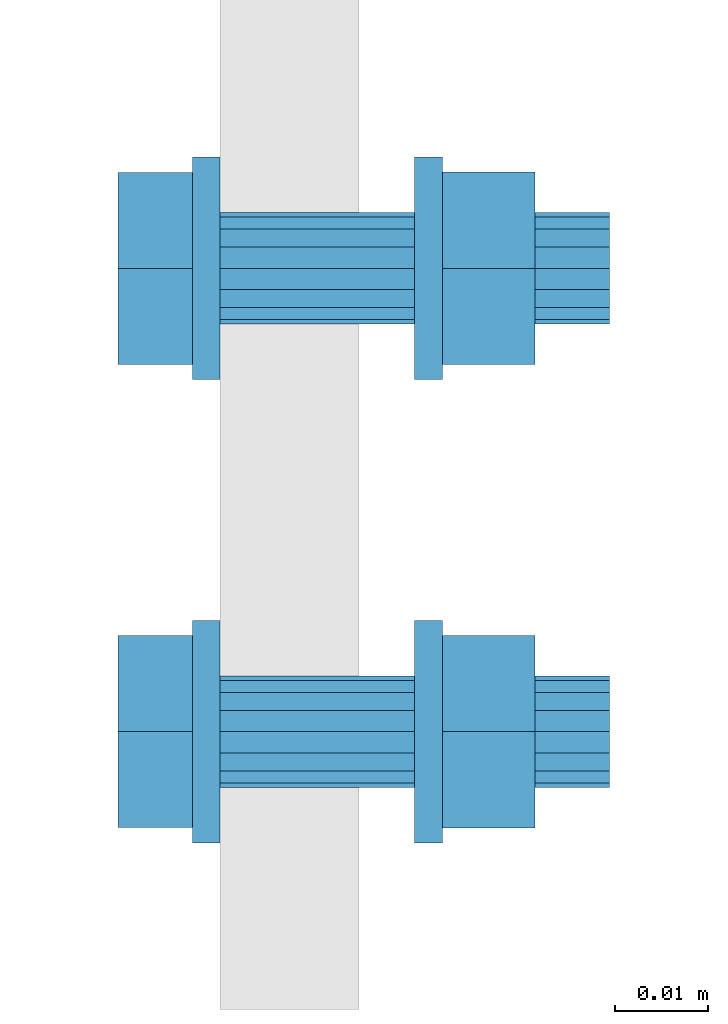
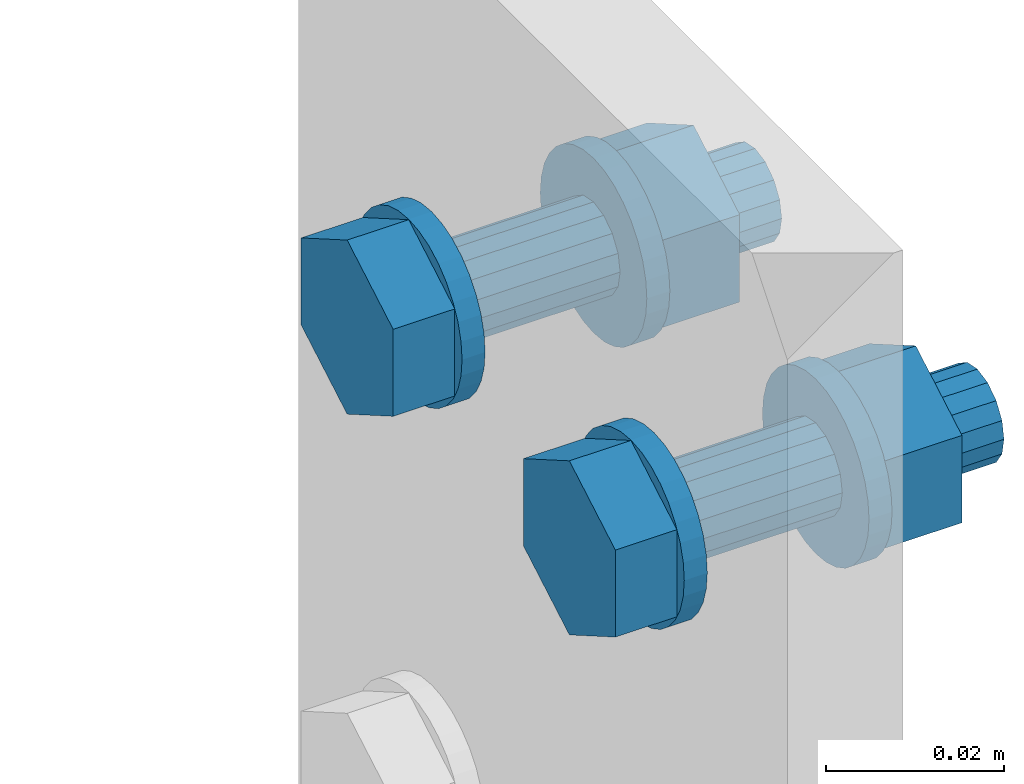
# One storey, part 12 of 13: 2 mechanical fasteners.
"""IFC4X3_ADD2 building model written with IfcOpenShell, lengths in millimetres."""

from ifc_helpers import new_model, entity, si_unit, converted_unit, derived_unit, direction, origin, place, context, project, spatial, faceted_brep, element, save


model = new_model("IFC4X3_ADD2")

# Units and contexts
model_context = context("Model", 3, precision=0.01, world=origin(), true_north=direction((6.123233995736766e-17, 1.0)))
plan_context = context("Plan", 3, precision=0.01, world=origin(), true_north=direction((6.123233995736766e-17, 1.0)))
ifc_project = project(units=[si_unit("LENGTHUNIT", "METRE", prefix="MILLI"), converted_unit("PLANEANGLEUNIT", "DEGREE", entity("IfcPlaneAngleMeasure", 0.017453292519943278), si_unit("PLANEANGLEUNIT", "RADIAN"), dimensions=[0, 0, 0, 0, 0, 0, 0]), si_unit("AREAUNIT", "SQUARE_METRE"), si_unit("VOLUMEUNIT", "CUBIC_METRE"), derived_unit("THERMALTRANSMITTANCEUNIT", [(si_unit("MASSUNIT", "GRAM", prefix="KILO"), 1), (si_unit("THERMODYNAMICTEMPERATUREUNIT", "KELVIN"), -1), (si_unit("TIMEUNIT", "SECOND"), -3)]), derived_unit("USERDEFINED", [(si_unit("MASSUNIT", "GRAM", prefix="KILO"), 1), (si_unit("THERMODYNAMICTEMPERATUREUNIT", "KELVIN"), -1), (si_unit("TIMEUNIT", "SECOND"), -2)]), derived_unit("THERMALRESISTANCEUNIT", [(si_unit("MASSUNIT", "GRAM", prefix="KILO"), -1), (si_unit("TIMEUNIT", "SECOND"), 3), (si_unit("THERMODYNAMICTEMPERATUREUNIT", "KELVIN"), 1)]), si_unit("MASSUNIT", "GRAM", prefix="KILO"), derived_unit("MOMENTOFINERTIAUNIT", [(si_unit("LENGTHUNIT", "METRE"), 4)]), derived_unit("LINEARFORCEUNIT", [(si_unit("MASSUNIT", "GRAM", prefix="KILO"), 1), (si_unit("TIMEUNIT", "SECOND"), -2)]), derived_unit("WARPINGCONSTANTUNIT", [(si_unit("LENGTHUNIT", "METRE"), 6)]), si_unit("PRESSUREUNIT", "PASCAL"), derived_unit("MASSDENSITYUNIT", [(si_unit("MASSUNIT", "GRAM", prefix="KILO"), 1), (si_unit("LENGTHUNIT", "METRE"), -3)]), derived_unit("MODULUSOFELASTICITYUNIT", [(si_unit("MASSUNIT", "GRAM", prefix="KILO"), 1), (si_unit("TIMEUNIT", "SECOND"), -2), (si_unit("LENGTHUNIT", "METRE"), -1)]), derived_unit("THERMALEXPANSIONCOEFFICIENTUNIT", [(si_unit("THERMODYNAMICTEMPERATUREUNIT", "KELVIN"), -1)]), derived_unit("VAPORPERMEABILITYUNIT", [(si_unit("LENGTHUNIT", "METRE"), -1), (si_unit("TIMEUNIT", "SECOND"), 1)]), derived_unit("USERDEFINED", [(si_unit("MASSUNIT", "GRAM", prefix="KILO"), 1), (si_unit("TIMEUNIT", "SECOND"), -3), (si_unit("LENGTHUNIT", "METRE"), 3), (si_unit("ELECTRICCURRENTUNIT", "AMPERE"), -2)]), derived_unit("SPECIFICHEATCAPACITYUNIT", [(si_unit("THERMODYNAMICTEMPERATUREUNIT", "KELVIN"), -1), (si_unit("TIMEUNIT", "SECOND"), -2), (si_unit("LENGTHUNIT", "METRE"), 2)]), derived_unit("THERMALCONDUCTANCEUNIT", [(si_unit("MASSUNIT", "GRAM", prefix="KILO"), 1), (si_unit("THERMODYNAMICTEMPERATUREUNIT", "KELVIN"), -1), (si_unit("TIMEUNIT", "SECOND"), -3), (si_unit("LENGTHUNIT", "METRE"), 1)])], contexts=[model_context, plan_context])

# Site, building, storey
site_placement = place(None, origin())
site = spatial("IfcSite", under=ifc_project, at=site_placement, Name="Default", CompositionType="ELEMENT")
building_placement = place(site_placement, origin())
building = spatial("IfcBuilding", under=site, at=building_placement, Name="Complex structure", CompositionType="ELEMENT")
storey_placement = place(building_placement, origin())
storey = spatial("IfcBuildingStorey", under=building, at=storey_placement, Name="Level 00", CompositionType="ELEMENT", Elevation=0.0)

# Mechanical fasteners
mechanical_fastener_1_placement = place(storey_placement, origin())
element("IfcMechanicalFastener", 1, at=mechanical_fastener_1_placement, inside=storey, ObjectType="Bolt#1", NominalDiameter=12.0, NominalLength=45.0, context=model_context, shape_type="Brep", body=[
    faceted_brep([(-1166.221550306, -1295.866703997, 2965.0), (-1163.221550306, -1295.866703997, 2965.0), (-1163.221550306, -1296.097280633, 2962.658916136), (-1166.221550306, -1296.097280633, 2962.658916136), (-1163.221550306, -1296.780149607, 2960.407798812), (-1166.221550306, -1296.780149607, 2960.407798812), (-1163.221550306, -1297.88906865, 2958.333157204), (-1166.221550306, -1297.88906865, 2958.333157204), (-1163.221550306, -1299.381422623, 2956.514718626), (-1166.221550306, -1299.381422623, 2956.514718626), (-1163.221550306, -1301.199861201, 2955.022364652), (-1166.221550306, -1301.199861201, 2955.022364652), (-1163.221550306, -1303.274502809, 2953.91344561), (-1166.221550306, -1303.274502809, 2953.91344561), (-1163.221550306, -1305.525620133, 2953.230576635), (-1166.221550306, -1305.525620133, 2953.230576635), (-1163.221550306, -1307.866703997, 2953.0), (-1166.221550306, -1307.866703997, 2953.0), (-1163.221550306, -1310.207787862, 2953.230576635), (-1166.221550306, -1310.207787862, 2953.230576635), (-1163.221550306, -1312.458905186, 2953.91344561), (-1166.221550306, -1312.458905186, 2953.91344561), (-1163.221550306, -1314.533546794, 2955.022364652), (-1166.221550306, -1314.533546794, 2955.022364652), (-1163.221550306, -1316.351985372, 2956.514718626), (-1166.221550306, -1316.351985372, 2956.514718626), (-1163.221550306, -1317.844339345, 2958.333157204), (-1166.221550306, -1317.844339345, 2958.333157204), (-1163.221550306, -1318.953258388, 2960.407798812), (-1166.221550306, -1318.953258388, 2960.407798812), (-1163.221550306, -1319.636127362, 2962.658916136), (-1166.221550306, -1319.636127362, 2962.658916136), (-1163.221550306, -1319.866703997, 2965.0), (-1166.221550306, -1319.866703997, 2965.0), (-1163.221550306, -1319.636127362, 2967.341083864), (-1166.221550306, -1319.636127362, 2967.341083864), (-1163.221550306, -1318.953258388, 2969.592201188), (-1166.221550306, -1318.953258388, 2969.592201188), (-1163.221550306, -1317.844339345, 2971.666842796), (-1166.221550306, -1317.844339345, 2971.666842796), (-1163.221550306, -1316.351985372, 2973.485281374), (-1166.221550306, -1316.351985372, 2973.485281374), (-1163.221550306, -1314.533546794, 2974.977635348), (-1166.221550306, -1314.533546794, 2974.977635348), (-1163.221550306, -1312.458905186, 2976.08655439), (-1166.221550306, -1312.458905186, 2976.08655439), (-1163.221550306, -1310.207787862, 2976.769423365), (-1166.221550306, -1310.207787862, 2976.769423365), (-1163.221550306, -1307.866703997, 2977.0), (-1166.221550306, -1307.866703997, 2977.0), (-1163.221550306, -1305.525620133, 2976.769423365), (-1166.221550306, -1305.525620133, 2976.769423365), (-1163.221550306, -1303.274502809, 2976.08655439), (-1166.221550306, -1303.274502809, 2976.08655439), (-1163.221550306, -1301.199861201, 2974.977635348), (-1166.221550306, -1301.199861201, 2974.977635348), (-1163.221550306, -1299.381422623, 2973.485281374), (-1166.221550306, -1299.381422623, 2973.485281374), (-1163.221550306, -1297.88906865, 2971.666842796), (-1166.221550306, -1297.88906865, 2971.666842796), (-1163.221550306, -1296.780149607, 2969.592201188), (-1166.221550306, -1296.780149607, 2969.592201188), (-1163.221550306, -1296.097280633, 2967.341083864), (-1166.221550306, -1296.097280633, 2967.341083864)], [[[0, 1, 2, 3]], [[3, 2, 4, 5]], [[5, 4, 6, 7]], [[7, 6, 8, 9]], [[9, 8, 10, 11]], [[11, 10, 12, 13]], [[13, 12, 14, 15]], [[15, 14, 16, 17]], [[17, 16, 18, 19]], [[19, 18, 20, 21]], [[21, 20, 22, 23]], [[23, 22, 24, 25]], [[25, 24, 26, 27]], [[27, 26, 28, 29]], [[29, 28, 30, 31]], [[31, 30, 32, 33]], [[33, 32, 34, 35]], [[35, 34, 36, 37]], [[37, 36, 38, 39]], [[39, 38, 40, 41]], [[41, 40, 42, 43]], [[43, 42, 44, 45]], [[45, 44, 46, 47]], [[47, 46, 48, 49]], [[49, 48, 50, 51]], [[51, 50, 52, 53]], [[53, 52, 54, 55]], [[55, 54, 56, 57]], [[57, 56, 58, 59]], [[59, 58, 60, 61]], [[61, 60, 62, 63]], [[63, 62, 1, 0]], [[0, 3, 5, 7, 9, 11, 13, 15, 17, 19, 21, 23, 25, 27, 29, 31, 33, 35, 37, 39, 41, 43, 45, 47, 49, 51, 53, 55, 57, 59, 61, 63]], [[1, 62, 60, 58, 56, 54, 52, 50, 48, 46, 44, 42, 40, 38, 36, 34, 32, 30, 28, 26, 24, 22, 20, 18, 16, 14, 12, 10, 8, 6, 4, 2]]]),
    faceted_brep([(-1166.221550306, -1318.2200377, 2959.0225), (-1174.221550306, -1318.2200377, 2959.0225), (-1174.221550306, -1307.866703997, 2953.045), (-1166.221550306, -1307.866703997, 2953.045), (-1174.221550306, -1297.513370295, 2959.0225), (-1166.221550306, -1297.513370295, 2959.0225), (-1174.221550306, -1297.513370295, 2970.9775), (-1166.221550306, -1297.513370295, 2970.9775), (-1174.221550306, -1307.866703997, 2976.955), (-1166.221550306, -1307.866703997, 2976.955), (-1174.221550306, -1318.2200377, 2970.9775), (-1166.221550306, -1318.2200377, 2970.9775)], [[[0, 1, 2, 3]], [[3, 2, 4, 5]], [[5, 4, 6, 7]], [[7, 6, 8, 9]], [[9, 8, 10, 11]], [[11, 10, 1, 0]], [[4, 2, 1, 10, 8, 6]], [[0, 3, 5, 7, 9, 11]]]),
    faceted_brep([(-1163.221550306, -1301.866703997, 2965.0), (-1142.221550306, -1301.866703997, 2965.0), (-1142.221550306, -1302.323426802, 2962.703899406), (-1163.221550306, -1302.323426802, 2962.703899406), (-1142.221550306, -1303.62406331, 2960.757359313), (-1163.221550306, -1303.62406331, 2960.757359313), (-1142.221550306, -1305.570603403, 2959.456722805), (-1163.221550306, -1305.570603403, 2959.456722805), (-1142.221550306, -1307.866703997, 2959.0), (-1163.221550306, -1307.866703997, 2959.0), (-1142.221550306, -1310.162804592, 2959.456722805), (-1163.221550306, -1310.162804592, 2959.456722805), (-1142.221550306, -1312.109344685, 2960.757359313), (-1163.221550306, -1312.109344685, 2960.757359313), (-1142.221550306, -1313.409981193, 2962.703899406), (-1163.221550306, -1313.409981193, 2962.703899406), (-1142.221550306, -1313.866703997, 2965.0), (-1163.221550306, -1313.866703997, 2965.0), (-1142.221550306, -1313.409981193, 2967.296100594), (-1163.221550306, -1313.409981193, 2967.296100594), (-1142.221550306, -1312.109344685, 2969.242640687), (-1163.221550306, -1312.109344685, 2969.242640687), (-1142.221550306, -1310.162804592, 2970.543277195), (-1163.221550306, -1310.162804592, 2970.543277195), (-1142.221550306, -1307.866703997, 2971.0), (-1163.221550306, -1307.866703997, 2971.0), (-1142.221550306, -1305.570603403, 2970.543277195), (-1163.221550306, -1305.570603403, 2970.543277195), (-1142.221550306, -1303.62406331, 2969.242640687), (-1163.221550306, -1303.62406331, 2969.242640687), (-1142.221550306, -1302.323426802, 2967.296100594), (-1163.221550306, -1302.323426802, 2967.296100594)], [[[0, 1, 2, 3]], [[3, 2, 4, 5]], [[5, 4, 6, 7]], [[7, 6, 8, 9]], [[9, 8, 10, 11]], [[11, 10, 12, 13]], [[13, 12, 14, 15]], [[15, 14, 16, 17]], [[17, 16, 18, 19]], [[19, 18, 20, 21]], [[21, 20, 22, 23]], [[23, 22, 24, 25]], [[25, 24, 26, 27]], [[27, 26, 28, 29]], [[29, 28, 30, 31]], [[31, 30, 1, 0]], [[0, 3, 5, 7, 9, 11, 13, 15, 17, 19, 21, 23, 25, 27, 29, 31]], [[1, 30, 28, 26, 24, 22, 20, 18, 16, 14, 12, 10, 8, 6, 4, 2]]]),
    faceted_brep([(-1142.221550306, -1295.866703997, 2965.0), (-1139.221550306, -1295.866703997, 2965.0), (-1139.221550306, -1296.097280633, 2962.658916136), (-1142.221550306, -1296.097280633, 2962.658916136), (-1139.221550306, -1296.780149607, 2960.407798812), (-1142.221550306, -1296.780149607, 2960.407798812), (-1139.221550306, -1297.88906865, 2958.333157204), (-1142.221550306, -1297.88906865, 2958.333157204), (-1139.221550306, -1299.381422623, 2956.514718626), (-1142.221550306, -1299.381422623, 2956.514718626), (-1139.221550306, -1301.199861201, 2955.022364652), (-1142.221550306, -1301.199861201, 2955.022364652), (-1139.221550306, -1303.274502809, 2953.91344561), (-1142.221550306, -1303.274502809, 2953.91344561), (-1139.221550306, -1305.525620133, 2953.230576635), (-1142.221550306, -1305.525620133, 2953.230576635), (-1139.221550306, -1307.866703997, 2953.0), (-1142.221550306, -1307.866703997, 2953.0), (-1139.221550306, -1310.207787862, 2953.230576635), (-1142.221550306, -1310.207787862, 2953.230576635), (-1139.221550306, -1312.458905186, 2953.91344561), (-1142.221550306, -1312.458905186, 2953.91344561), (-1139.221550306, -1314.533546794, 2955.022364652), (-1142.221550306, -1314.533546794, 2955.022364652), (-1139.221550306, -1316.351985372, 2956.514718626), (-1142.221550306, -1316.351985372, 2956.514718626), (-1139.221550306, -1317.844339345, 2958.333157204), (-1142.221550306, -1317.844339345, 2958.333157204), (-1139.221550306, -1318.953258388, 2960.407798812), (-1142.221550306, -1318.953258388, 2960.407798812), (-1139.221550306, -1319.636127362, 2962.658916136), (-1142.221550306, -1319.636127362, 2962.658916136), (-1139.221550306, -1319.866703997, 2965.0), (-1142.221550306, -1319.866703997, 2965.0), (-1139.221550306, -1319.636127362, 2967.341083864), (-1142.221550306, -1319.636127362, 2967.341083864), (-1139.221550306, -1318.953258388, 2969.592201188), (-1142.221550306, -1318.953258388, 2969.592201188), (-1139.221550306, -1317.844339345, 2971.666842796), (-1142.221550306, -1317.844339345, 2971.666842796), (-1139.221550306, -1316.351985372, 2973.485281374), (-1142.221550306, -1316.351985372, 2973.485281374), (-1139.221550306, -1314.533546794, 2974.977635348), (-1142.221550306, -1314.533546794, 2974.977635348), (-1139.221550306, -1312.458905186, 2976.08655439), (-1142.221550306, -1312.458905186, 2976.08655439), (-1139.221550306, -1310.207787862, 2976.769423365), (-1142.221550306, -1310.207787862, 2976.769423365), (-1139.221550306, -1307.866703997, 2977.0), (-1142.221550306, -1307.866703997, 2977.0), (-1139.221550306, -1305.525620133, 2976.769423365), (-1142.221550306, -1305.525620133, 2976.769423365), (-1139.221550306, -1303.274502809, 2976.08655439), (-1142.221550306, -1303.274502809, 2976.08655439), (-1139.221550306, -1301.199861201, 2974.977635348), (-1142.221550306, -1301.199861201, 2974.977635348), (-1139.221550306, -1299.381422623, 2973.485281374), (-1142.221550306, -1299.381422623, 2973.485281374), (-1139.221550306, -1297.88906865, 2971.666842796), (-1142.221550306, -1297.88906865, 2971.666842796), (-1139.221550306, -1296.780149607, 2969.592201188), (-1142.221550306, -1296.780149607, 2969.592201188), (-1139.221550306, -1296.097280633, 2967.341083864), (-1142.221550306, -1296.097280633, 2967.341083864)], [[[0, 1, 2, 3]], [[3, 2, 4, 5]], [[5, 4, 6, 7]], [[7, 6, 8, 9]], [[9, 8, 10, 11]], [[11, 10, 12, 13]], [[13, 12, 14, 15]], [[15, 14, 16, 17]], [[17, 16, 18, 19]], [[19, 18, 20, 21]], [[21, 20, 22, 23]], [[23, 22, 24, 25]], [[25, 24, 26, 27]], [[27, 26, 28, 29]], [[29, 28, 30, 31]], [[31, 30, 32, 33]], [[33, 32, 34, 35]], [[35, 34, 36, 37]], [[37, 36, 38, 39]], [[39, 38, 40, 41]], [[41, 40, 42, 43]], [[43, 42, 44, 45]], [[45, 44, 46, 47]], [[47, 46, 48, 49]], [[49, 48, 50, 51]], [[51, 50, 52, 53]], [[53, 52, 54, 55]], [[55, 54, 56, 57]], [[57, 56, 58, 59]], [[59, 58, 60, 61]], [[61, 60, 62, 63]], [[63, 62, 1, 0]], [[0, 3, 5, 7, 9, 11, 13, 15, 17, 19, 21, 23, 25, 27, 29, 31, 33, 35, 37, 39, 41, 43, 45, 47, 49, 51, 53, 55, 57, 59, 61, 63]], [[1, 62, 60, 58, 56, 54, 52, 50, 48, 46, 44, 42, 40, 38, 36, 34, 32, 30, 28, 26, 24, 22, 20, 18, 16, 14, 12, 10, 8, 6, 4, 2]]]),
    faceted_brep([(-1129.221550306, -1318.259008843, 2959.0), (-1139.221550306, -1318.259008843, 2959.0), (-1139.221550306, -1307.866703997, 2953.0), (-1129.221550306, -1307.866703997, 2953.0), (-1139.221550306, -1297.474399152, 2959.0), (-1129.221550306, -1297.474399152, 2959.0), (-1139.221550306, -1297.474399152, 2971.0), (-1129.221550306, -1297.474399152, 2971.0), (-1139.221550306, -1307.866703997, 2977.0), (-1129.221550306, -1307.866703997, 2977.0), (-1139.221550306, -1318.259008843, 2971.0), (-1129.221550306, -1318.259008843, 2971.0)], [[[0, 1, 2, 3]], [[3, 2, 4, 5]], [[5, 4, 6, 7]], [[7, 6, 8, 9]], [[9, 8, 10, 11]], [[11, 10, 1, 0]], [[4, 2, 1, 10, 8, 6]], [[0, 3, 5, 7, 9, 11]]]),
    faceted_brep([(-1129.221550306, -1301.866703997, 2965.0), (-1121.221550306, -1301.866703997, 2965.0), (-1121.221550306, -1302.323426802, 2962.703899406), (-1129.221550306, -1302.323426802, 2962.703899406), (-1121.221550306, -1303.62406331, 2960.757359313), (-1129.221550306, -1303.62406331, 2960.757359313), (-1121.221550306, -1305.570603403, 2959.456722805), (-1129.221550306, -1305.570603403, 2959.456722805), (-1121.221550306, -1307.866703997, 2959.0), (-1129.221550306, -1307.866703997, 2959.0), (-1121.221550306, -1310.162804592, 2959.456722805), (-1129.221550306, -1310.162804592, 2959.456722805), (-1121.221550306, -1312.109344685, 2960.757359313), (-1129.221550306, -1312.109344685, 2960.757359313), (-1121.221550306, -1313.409981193, 2962.703899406), (-1129.221550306, -1313.409981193, 2962.703899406), (-1121.221550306, -1313.866703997, 2965.0), (-1129.221550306, -1313.866703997, 2965.0), (-1121.221550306, -1313.409981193, 2967.296100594), (-1129.221550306, -1313.409981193, 2967.296100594), (-1121.221550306, -1312.109344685, 2969.242640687), (-1129.221550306, -1312.109344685, 2969.242640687), (-1121.221550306, -1310.162804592, 2970.543277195), (-1129.221550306, -1310.162804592, 2970.543277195), (-1121.221550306, -1307.866703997, 2971.0), (-1129.221550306, -1307.866703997, 2971.0), (-1121.221550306, -1305.570603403, 2970.543277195), (-1129.221550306, -1305.570603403, 2970.543277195), (-1121.221550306, -1303.62406331, 2969.242640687), (-1129.221550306, -1303.62406331, 2969.242640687), (-1121.221550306, -1302.323426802, 2967.296100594), (-1129.221550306, -1302.323426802, 2967.296100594)], [[[0, 1, 2, 3]], [[3, 2, 4, 5]], [[5, 4, 6, 7]], [[7, 6, 8, 9]], [[9, 8, 10, 11]], [[11, 10, 12, 13]], [[13, 12, 14, 15]], [[15, 14, 16, 17]], [[17, 16, 18, 19]], [[19, 18, 20, 21]], [[21, 20, 22, 23]], [[23, 22, 24, 25]], [[25, 24, 26, 27]], [[27, 26, 28, 29]], [[29, 28, 30, 31]], [[31, 30, 1, 0]], [[0, 3, 5, 7, 9, 11, 13, 15, 17, 19, 21, 23, 25, 27, 29, 31]], [[1, 30, 28, 26, 24, 22, 20, 18, 16, 14, 12, 10, 8, 6, 4, 2]]]),
])
mechanical_fastener_2_placement = place(storey_placement, origin())
element("IfcMechanicalFastener", 2, at=mechanical_fastener_2_placement, inside=storey, ObjectType="Bolt#2", NominalDiameter=12.0, NominalLength=45.0, context=model_context, shape_type="Brep", body=[
    faceted_brep([(-1166.221550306, -1269.866703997, 2965.0), (-1163.221550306, -1269.866703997, 2965.0), (-1163.221550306, -1269.636127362, 2967.341083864), (-1166.221550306, -1269.636127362, 2967.341083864), (-1163.221550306, -1268.953258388, 2969.592201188), (-1166.221550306, -1268.953258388, 2969.592201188), (-1163.221550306, -1267.844339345, 2971.666842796), (-1166.221550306, -1267.844339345, 2971.666842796), (-1163.221550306, -1266.351985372, 2973.485281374), (-1166.221550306, -1266.351985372, 2973.485281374), (-1163.221550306, -1264.533546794, 2974.977635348), (-1166.221550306, -1264.533546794, 2974.977635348), (-1163.221550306, -1262.458905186, 2976.08655439), (-1166.221550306, -1262.458905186, 2976.08655439), (-1163.221550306, -1260.207787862, 2976.769423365), (-1166.221550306, -1260.207787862, 2976.769423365), (-1163.221550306, -1257.866703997, 2977.0), (-1166.221550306, -1257.866703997, 2977.0), (-1163.221550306, -1255.525620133, 2976.769423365), (-1166.221550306, -1255.525620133, 2976.769423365), (-1163.221550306, -1253.274502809, 2976.08655439), (-1166.221550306, -1253.274502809, 2976.08655439), (-1163.221550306, -1251.199861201, 2974.977635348), (-1166.221550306, -1251.199861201, 2974.977635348), (-1163.221550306, -1249.381422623, 2973.485281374), (-1166.221550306, -1249.381422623, 2973.485281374), (-1163.221550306, -1247.88906865, 2971.666842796), (-1166.221550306, -1247.88906865, 2971.666842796), (-1163.221550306, -1246.780149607, 2969.592201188), (-1166.221550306, -1246.780149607, 2969.592201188), (-1163.221550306, -1246.097280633, 2967.341083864), (-1166.221550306, -1246.097280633, 2967.341083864), (-1163.221550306, -1245.866703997, 2965.0), (-1166.221550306, -1245.866703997, 2965.0), (-1163.221550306, -1246.097280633, 2962.658916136), (-1166.221550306, -1246.097280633, 2962.658916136), (-1163.221550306, -1246.780149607, 2960.407798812), (-1166.221550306, -1246.780149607, 2960.407798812), (-1163.221550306, -1247.88906865, 2958.333157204), (-1166.221550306, -1247.88906865, 2958.333157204), (-1163.221550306, -1249.381422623, 2956.514718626), (-1166.221550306, -1249.381422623, 2956.514718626), (-1163.221550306, -1251.199861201, 2955.022364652), (-1166.221550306, -1251.199861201, 2955.022364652), (-1163.221550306, -1253.274502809, 2953.91344561), (-1166.221550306, -1253.274502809, 2953.91344561), (-1163.221550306, -1255.525620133, 2953.230576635), (-1166.221550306, -1255.525620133, 2953.230576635), (-1163.221550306, -1257.866703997, 2953.0), (-1166.221550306, -1257.866703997, 2953.0), (-1163.221550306, -1260.207787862, 2953.230576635), (-1166.221550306, -1260.207787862, 2953.230576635), (-1163.221550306, -1262.458905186, 2953.91344561), (-1166.221550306, -1262.458905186, 2953.91344561), (-1163.221550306, -1264.533546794, 2955.022364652), (-1166.221550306, -1264.533546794, 2955.022364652), (-1163.221550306, -1266.351985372, 2956.514718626), (-1166.221550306, -1266.351985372, 2956.514718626), (-1163.221550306, -1267.844339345, 2958.333157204), (-1166.221550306, -1267.844339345, 2958.333157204), (-1163.221550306, -1268.953258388, 2960.407798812), (-1166.221550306, -1268.953258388, 2960.407798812), (-1163.221550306, -1269.636127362, 2962.658916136), (-1166.221550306, -1269.636127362, 2962.658916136)], [[[0, 1, 2, 3]], [[3, 2, 4, 5]], [[5, 4, 6, 7]], [[7, 6, 8, 9]], [[9, 8, 10, 11]], [[11, 10, 12, 13]], [[13, 12, 14, 15]], [[15, 14, 16, 17]], [[17, 16, 18, 19]], [[19, 18, 20, 21]], [[21, 20, 22, 23]], [[23, 22, 24, 25]], [[25, 24, 26, 27]], [[27, 26, 28, 29]], [[29, 28, 30, 31]], [[31, 30, 32, 33]], [[33, 32, 34, 35]], [[35, 34, 36, 37]], [[37, 36, 38, 39]], [[39, 38, 40, 41]], [[41, 40, 42, 43]], [[43, 42, 44, 45]], [[45, 44, 46, 47]], [[47, 46, 48, 49]], [[49, 48, 50, 51]], [[51, 50, 52, 53]], [[53, 52, 54, 55]], [[55, 54, 56, 57]], [[57, 56, 58, 59]], [[59, 58, 60, 61]], [[61, 60, 62, 63]], [[63, 62, 1, 0]], [[0, 3, 5, 7, 9, 11, 13, 15, 17, 19, 21, 23, 25, 27, 29, 31, 33, 35, 37, 39, 41, 43, 45, 47, 49, 51, 53, 55, 57, 59, 61, 63]], [[1, 62, 60, 58, 56, 54, 52, 50, 48, 46, 44, 42, 40, 38, 36, 34, 32, 30, 28, 26, 24, 22, 20, 18, 16, 14, 12, 10, 8, 6, 4, 2]]]),
    faceted_brep([(-1166.221550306, -1247.513370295, 2970.9775), (-1174.221550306, -1247.513370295, 2970.9775), (-1174.221550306, -1257.866703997, 2976.955), (-1166.221550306, -1257.866703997, 2976.955), (-1174.221550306, -1268.2200377, 2970.9775), (-1166.221550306, -1268.2200377, 2970.9775), (-1174.221550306, -1268.2200377, 2959.0225), (-1166.221550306, -1268.2200377, 2959.0225), (-1174.221550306, -1257.866703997, 2953.045), (-1166.221550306, -1257.866703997, 2953.045), (-1174.221550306, -1247.513370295, 2959.0225), (-1166.221550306, -1247.513370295, 2959.0225)], [[[0, 1, 2, 3]], [[3, 2, 4, 5]], [[5, 4, 6, 7]], [[7, 6, 8, 9]], [[9, 8, 10, 11]], [[11, 10, 1, 0]], [[4, 2, 1, 10, 8, 6]], [[0, 3, 5, 7, 9, 11]]]),
    faceted_brep([(-1163.221550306, -1263.866703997, 2965.0), (-1142.221550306, -1263.866703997, 2965.0), (-1142.221550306, -1263.409981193, 2967.296100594), (-1163.221550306, -1263.409981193, 2967.296100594), (-1142.221550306, -1262.109344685, 2969.242640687), (-1163.221550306, -1262.109344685, 2969.242640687), (-1142.221550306, -1260.162804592, 2970.543277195), (-1163.221550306, -1260.162804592, 2970.543277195), (-1142.221550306, -1257.866703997, 2971.0), (-1163.221550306, -1257.866703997, 2971.0), (-1142.221550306, -1255.570603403, 2970.543277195), (-1163.221550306, -1255.570603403, 2970.543277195), (-1142.221550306, -1253.62406331, 2969.242640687), (-1163.221550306, -1253.62406331, 2969.242640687), (-1142.221550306, -1252.323426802, 2967.296100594), (-1163.221550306, -1252.323426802, 2967.296100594), (-1142.221550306, -1251.866703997, 2965.0), (-1163.221550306, -1251.866703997, 2965.0), (-1142.221550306, -1252.323426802, 2962.703899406), (-1163.221550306, -1252.323426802, 2962.703899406), (-1142.221550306, -1253.62406331, 2960.757359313), (-1163.221550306, -1253.62406331, 2960.757359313), (-1142.221550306, -1255.570603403, 2959.456722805), (-1163.221550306, -1255.570603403, 2959.456722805), (-1142.221550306, -1257.866703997, 2959.0), (-1163.221550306, -1257.866703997, 2959.0), (-1142.221550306, -1260.162804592, 2959.456722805), (-1163.221550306, -1260.162804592, 2959.456722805), (-1142.221550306, -1262.109344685, 2960.757359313), (-1163.221550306, -1262.109344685, 2960.757359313), (-1142.221550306, -1263.409981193, 2962.703899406), (-1163.221550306, -1263.409981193, 2962.703899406)], [[[0, 1, 2, 3]], [[3, 2, 4, 5]], [[5, 4, 6, 7]], [[7, 6, 8, 9]], [[9, 8, 10, 11]], [[11, 10, 12, 13]], [[13, 12, 14, 15]], [[15, 14, 16, 17]], [[17, 16, 18, 19]], [[19, 18, 20, 21]], [[21, 20, 22, 23]], [[23, 22, 24, 25]], [[25, 24, 26, 27]], [[27, 26, 28, 29]], [[29, 28, 30, 31]], [[31, 30, 1, 0]], [[0, 3, 5, 7, 9, 11, 13, 15, 17, 19, 21, 23, 25, 27, 29, 31]], [[1, 30, 28, 26, 24, 22, 20, 18, 16, 14, 12, 10, 8, 6, 4, 2]]]),
    faceted_brep([(-1142.221550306, -1269.866703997, 2965.0), (-1139.221550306, -1269.866703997, 2965.0), (-1139.221550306, -1269.636127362, 2967.341083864), (-1142.221550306, -1269.636127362, 2967.341083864), (-1139.221550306, -1268.953258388, 2969.592201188), (-1142.221550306, -1268.953258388, 2969.592201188), (-1139.221550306, -1267.844339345, 2971.666842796), (-1142.221550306, -1267.844339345, 2971.666842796), (-1139.221550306, -1266.351985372, 2973.485281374), (-1142.221550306, -1266.351985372, 2973.485281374), (-1139.221550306, -1264.533546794, 2974.977635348), (-1142.221550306, -1264.533546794, 2974.977635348), (-1139.221550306, -1262.458905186, 2976.08655439), (-1142.221550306, -1262.458905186, 2976.08655439), (-1139.221550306, -1260.207787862, 2976.769423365), (-1142.221550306, -1260.207787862, 2976.769423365), (-1139.221550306, -1257.866703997, 2977.0), (-1142.221550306, -1257.866703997, 2977.0), (-1139.221550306, -1255.525620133, 2976.769423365), (-1142.221550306, -1255.525620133, 2976.769423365), (-1139.221550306, -1253.274502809, 2976.08655439), (-1142.221550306, -1253.274502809, 2976.08655439), (-1139.221550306, -1251.199861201, 2974.977635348), (-1142.221550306, -1251.199861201, 2974.977635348), (-1139.221550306, -1249.381422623, 2973.485281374), (-1142.221550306, -1249.381422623, 2973.485281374), (-1139.221550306, -1247.88906865, 2971.666842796), (-1142.221550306, -1247.88906865, 2971.666842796), (-1139.221550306, -1246.780149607, 2969.592201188), (-1142.221550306, -1246.780149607, 2969.592201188), (-1139.221550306, -1246.097280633, 2967.341083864), (-1142.221550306, -1246.097280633, 2967.341083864), (-1139.221550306, -1245.866703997, 2965.0), (-1142.221550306, -1245.866703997, 2965.0), (-1139.221550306, -1246.097280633, 2962.658916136), (-1142.221550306, -1246.097280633, 2962.658916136), (-1139.221550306, -1246.780149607, 2960.407798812), (-1142.221550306, -1246.780149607, 2960.407798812), (-1139.221550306, -1247.88906865, 2958.333157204), (-1142.221550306, -1247.88906865, 2958.333157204), (-1139.221550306, -1249.381422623, 2956.514718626), (-1142.221550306, -1249.381422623, 2956.514718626), (-1139.221550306, -1251.199861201, 2955.022364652), (-1142.221550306, -1251.199861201, 2955.022364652), (-1139.221550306, -1253.274502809, 2953.91344561), (-1142.221550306, -1253.274502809, 2953.91344561), (-1139.221550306, -1255.525620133, 2953.230576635), (-1142.221550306, -1255.525620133, 2953.230576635), (-1139.221550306, -1257.866703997, 2953.0), (-1142.221550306, -1257.866703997, 2953.0), (-1139.221550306, -1260.207787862, 2953.230576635), (-1142.221550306, -1260.207787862, 2953.230576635), (-1139.221550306, -1262.458905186, 2953.91344561), (-1142.221550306, -1262.458905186, 2953.91344561), (-1139.221550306, -1264.533546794, 2955.022364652), (-1142.221550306, -1264.533546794, 2955.022364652), (-1139.221550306, -1266.351985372, 2956.514718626), (-1142.221550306, -1266.351985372, 2956.514718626), (-1139.221550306, -1267.844339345, 2958.333157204), (-1142.221550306, -1267.844339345, 2958.333157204), (-1139.221550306, -1268.953258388, 2960.407798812), (-1142.221550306, -1268.953258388, 2960.407798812), (-1139.221550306, -1269.636127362, 2962.658916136), (-1142.221550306, -1269.636127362, 2962.658916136)], [[[0, 1, 2, 3]], [[3, 2, 4, 5]], [[5, 4, 6, 7]], [[7, 6, 8, 9]], [[9, 8, 10, 11]], [[11, 10, 12, 13]], [[13, 12, 14, 15]], [[15, 14, 16, 17]], [[17, 16, 18, 19]], [[19, 18, 20, 21]], [[21, 20, 22, 23]], [[23, 22, 24, 25]], [[25, 24, 26, 27]], [[27, 26, 28, 29]], [[29, 28, 30, 31]], [[31, 30, 32, 33]], [[33, 32, 34, 35]], [[35, 34, 36, 37]], [[37, 36, 38, 39]], [[39, 38, 40, 41]], [[41, 40, 42, 43]], [[43, 42, 44, 45]], [[45, 44, 46, 47]], [[47, 46, 48, 49]], [[49, 48, 50, 51]], [[51, 50, 52, 53]], [[53, 52, 54, 55]], [[55, 54, 56, 57]], [[57, 56, 58, 59]], [[59, 58, 60, 61]], [[61, 60, 62, 63]], [[63, 62, 1, 0]], [[0, 3, 5, 7, 9, 11, 13, 15, 17, 19, 21, 23, 25, 27, 29, 31, 33, 35, 37, 39, 41, 43, 45, 47, 49, 51, 53, 55, 57, 59, 61, 63]], [[1, 62, 60, 58, 56, 54, 52, 50, 48, 46, 44, 42, 40, 38, 36, 34, 32, 30, 28, 26, 24, 22, 20, 18, 16, 14, 12, 10, 8, 6, 4, 2]]]),
    faceted_brep([(-1129.221550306, -1247.474399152, 2971.0), (-1139.221550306, -1247.474399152, 2971.0), (-1139.221550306, -1257.866703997, 2977.0), (-1129.221550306, -1257.866703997, 2977.0), (-1139.221550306, -1268.259008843, 2971.0), (-1129.221550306, -1268.259008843, 2971.0), (-1139.221550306, -1268.259008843, 2959.0), (-1129.221550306, -1268.259008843, 2959.0), (-1139.221550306, -1257.866703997, 2953.0), (-1129.221550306, -1257.866703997, 2953.0), (-1139.221550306, -1247.474399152, 2959.0), (-1129.221550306, -1247.474399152, 2959.0)], [[[0, 1, 2, 3]], [[3, 2, 4, 5]], [[5, 4, 6, 7]], [[7, 6, 8, 9]], [[9, 8, 10, 11]], [[11, 10, 1, 0]], [[4, 2, 1, 10, 8, 6]], [[0, 3, 5, 7, 9, 11]]]),
    faceted_brep([(-1129.221550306, -1263.866703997, 2965.0), (-1121.221550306, -1263.866703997, 2965.0), (-1121.221550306, -1263.409981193, 2967.296100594), (-1129.221550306, -1263.409981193, 2967.296100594), (-1121.221550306, -1262.109344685, 2969.242640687), (-1129.221550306, -1262.109344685, 2969.242640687), (-1121.221550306, -1260.162804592, 2970.543277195), (-1129.221550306, -1260.162804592, 2970.543277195), (-1121.221550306, -1257.866703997, 2971.0), (-1129.221550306, -1257.866703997, 2971.0), (-1121.221550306, -1255.570603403, 2970.543277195), (-1129.221550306, -1255.570603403, 2970.543277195), (-1121.221550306, -1253.62406331, 2969.242640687), (-1129.221550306, -1253.62406331, 2969.242640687), (-1121.221550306, -1252.323426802, 2967.296100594), (-1129.221550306, -1252.323426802, 2967.296100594), (-1121.221550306, -1251.866703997, 2965.0), (-1129.221550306, -1251.866703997, 2965.0), (-1121.221550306, -1252.323426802, 2962.703899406), (-1129.221550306, -1252.323426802, 2962.703899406), (-1121.221550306, -1253.62406331, 2960.757359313), (-1129.221550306, -1253.62406331, 2960.757359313), (-1121.221550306, -1255.570603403, 2959.456722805), (-1129.221550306, -1255.570603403, 2959.456722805), (-1121.221550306, -1257.866703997, 2959.0), (-1129.221550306, -1257.866703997, 2959.0), (-1121.221550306, -1260.162804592, 2959.456722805), (-1129.221550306, -1260.162804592, 2959.456722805), (-1121.221550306, -1262.109344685, 2960.757359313), (-1129.221550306, -1262.109344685, 2960.757359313), (-1121.221550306, -1263.409981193, 2962.703899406), (-1129.221550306, -1263.409981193, 2962.703899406)], [[[0, 1, 2, 3]], [[3, 2, 4, 5]], [[5, 4, 6, 7]], [[7, 6, 8, 9]], [[9, 8, 10, 11]], [[11, 10, 12, 13]], [[13, 12, 14, 15]], [[15, 14, 16, 17]], [[17, 16, 18, 19]], [[19, 18, 20, 21]], [[21, 20, 22, 23]], [[23, 22, 24, 25]], [[25, 24, 26, 27]], [[27, 26, 28, 29]], [[29, 28, 30, 31]], [[31, 30, 1, 0]], [[0, 3, 5, 7, 9, 11, 13, 15, 17, 19, 21, 23, 25, 27, 29, 31]], [[1, 30, 28, 26, 24, 22, 20, 18, 16, 14, 12, 10, 8, 6, 4, 2]]]),
])

save(model, "model.ifc")
